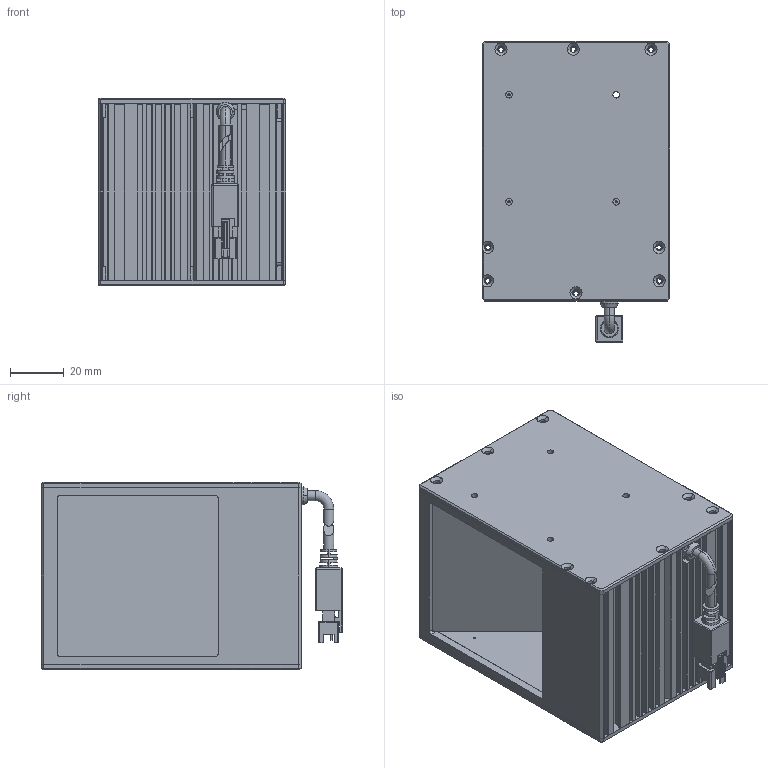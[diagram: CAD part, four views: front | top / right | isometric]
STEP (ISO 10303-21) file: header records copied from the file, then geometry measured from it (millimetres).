
FILE_DESCRIPTION (( 'STEP AP203' ), '1' );
FILE_NAME ('PPX-CO70S-W.STEP', '2022-09-12T09:38:08', ( 'Windows 蚚誧' ), ( 'Microsoft' ), 'SwSTEP 2.0', 'SolidWorks 2016', '' );
FILE_SCHEMA (( 'CONFIG_CONTROL_DESIGN' ));
Length unit declared in the file: millimetre
Products named in the file (2): PPX-CO70S-W
Bounding box: 70 x 112.55 x 70 mm (x, y, z)
Surface area: 73094.9 mm2 (no closed solid volume)
Topology: 0 solids, 13 shells, 460 faces, 1662 edges, 1167 vertices
Faces by surface type: plane 228, cylinder 178, cone 40, torus 9, sphere 3, bspline 2
Entity records: 18075 total; most frequent: CARTESIAN_POINT 3577, DIRECTION 3076, ORIENTED_EDGE 2719, EDGE_CURVE 1659, VERTEX_POINT 1167, LINE 1084, VECTOR 1084, AXIS2_PLACEMENT_3D 996
